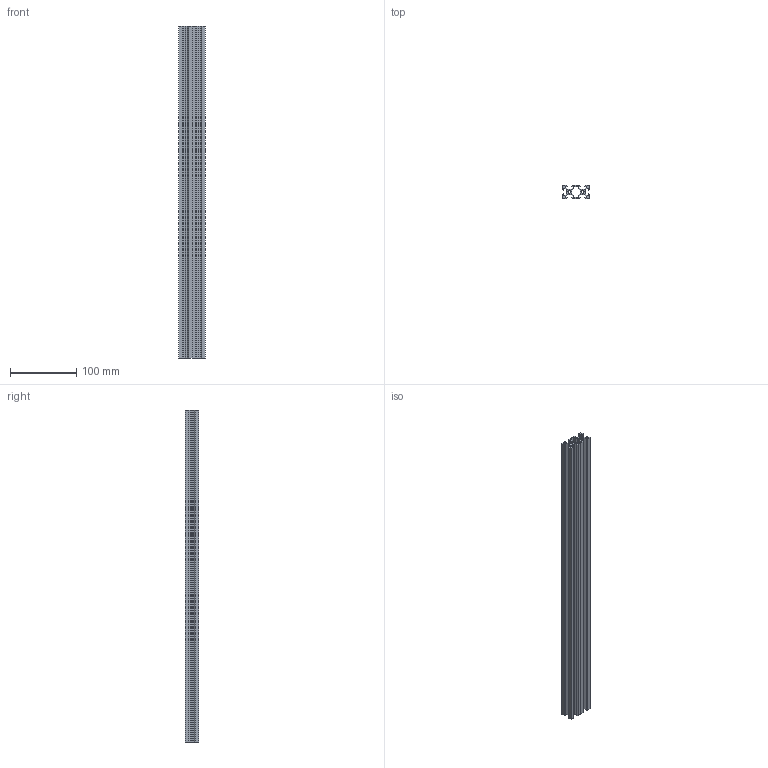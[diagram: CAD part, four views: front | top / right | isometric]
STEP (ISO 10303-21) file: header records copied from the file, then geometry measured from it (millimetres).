
FILE_DESCRIPTION(/* description */ (''),/* implementation_level */ '2;1');
FILE_NAME(/* name */ '20x40 V Slot Profile_.step',/* time_stamp */ '2025-04-22T12:56:48+05:30',/* author */ (''),/* organization */ (''),/* preprocessor_version */ 'ST-DEVELOPER v20.1',/* originating_system */ 'Autodesk Translation Framework v14.4.0.0',/* authorisation */ '');
FILE_SCHEMA (('AUTOMOTIVE_DESIGN { 1 0 10303 214 3 1 1 }'));
Length unit declared in the file: millimetre
Products named in the file (1): 20x40 V Slot Profile
Bounding box: 40 x 20 x 500 mm (x, y, z)
Volume: 144025.5 mm3; surface area: 147890.5 mm2
Topology: 1 solids, 1 shells, 126 faces, 372 edges, 248 vertices
Faces by surface type: plane 88, cylinder 38
Full cylindrical faces by diameter (mm): 4.2 x2
Entity records: 4244 total; most frequent: CARTESIAN_POINT 747, ORIENTED_EDGE 744, DIRECTION 702, EDGE_CURVE 372, LINE 296, VECTOR 296, VERTEX_POINT 248, AXIS2_PLACEMENT_3D 203
